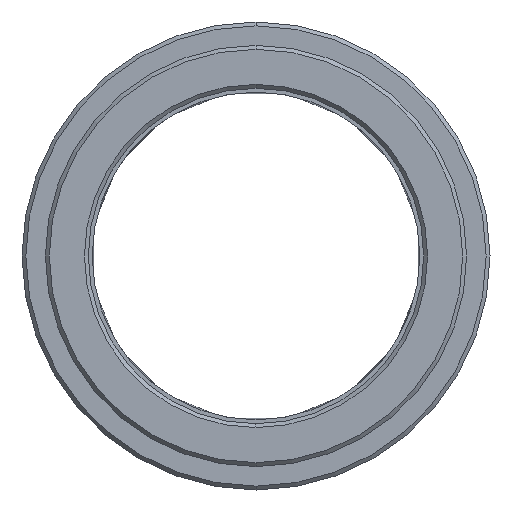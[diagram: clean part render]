
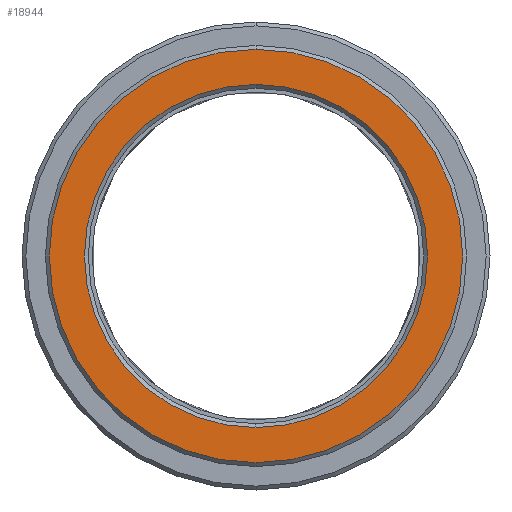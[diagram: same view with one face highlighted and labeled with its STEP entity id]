
A CAD part, left-side view. The second image highlights one B-rep face of the part: STEP entity #18944.
In plain terms, the highlighted planar face has unit normal (-1, 0, 0).
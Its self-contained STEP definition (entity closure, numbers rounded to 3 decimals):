
#7774=CARTESIAN_POINT('',(-10.,0.,
0.));
#7775=DIRECTION('',(1.,0.,0.));
#7776=DIRECTION('',(0.,0.,1.));
#7777=AXIS2_PLACEMENT_3D('',#7774,#7775,#7776);
#7779=CARTESIAN_POINT('',(-10.,0.,
0.));
#7780=DIRECTION('',(1.,0.,0.));
#7781=DIRECTION('',(0.,0.,-1.));
#7782=AXIS2_PLACEMENT_3D('',#7779,#7780,#7781);
#7784=CARTESIAN_POINT('',(-10.,0.,
0.));
#7785=DIRECTION('',(1.,0.,0.));
#7786=DIRECTION('',(0.,0.,1.));
#7787=AXIS2_PLACEMENT_3D('',#7784,#7785,#7786);
#7789=CARTESIAN_POINT('',(-10.,0.,0.));
#7790=DIRECTION('',(1.,0.,0.));
#7791=DIRECTION('',(0.,0.,-1.));
#7792=AXIS2_PLACEMENT_3D('',#7789,#7790,#7791);
#16366=CARTESIAN_POINT('',(-10.,0.,22.));
#16367=CARTESIAN_POINT('',(-10.,0.,-22.));
#16368=VERTEX_POINT('',#16366);
#16369=VERTEX_POINT('',#16367);
#16374=CARTESIAN_POINT('',(-10.,0.,26.5));
#16375=CARTESIAN_POINT('',(-10.,0.,-26.5));
#16376=VERTEX_POINT('',#16374);
#16377=VERTEX_POINT('',#16375);
#18928=CARTESIAN_POINT('',(-10.,0.,0.));
#18929=DIRECTION('',(1.,0.,0.));
#18930=DIRECTION('',(0.,0.,1.));
#18931=AXIS2_PLACEMENT_3D('',#18928,#18929,#18930);
#18932=PLANE('',#18931);
#18934=ORIENTED_EDGE('',*,*,#18933,.T.);
#18936=ORIENTED_EDGE('',*,*,#18935,.T.);
#18937=EDGE_LOOP('',(#18934,#18936));
#18938=FACE_OUTER_BOUND('',#18937,.F.);
#18939=ORIENTED_EDGE('',*,*,#18918,.F.);
#18941=ORIENTED_EDGE('',*,*,#18940,.F.);
#18942=EDGE_LOOP('',(#18939,#18941));
#18943=FACE_BOUND('',#18942,.F.);
#18944=ADVANCED_FACE('',(#18938,#18943),#18932,.F.);
#7778=CIRCLE('',#7777,26.5);
#7783=CIRCLE('',#7782,26.5);
#7788=CIRCLE('',#7787,22.);
#7793=CIRCLE('',#7792,22.);
#18918=EDGE_CURVE('',#16368,#16369,#7788,.T.);
#18933=EDGE_CURVE('',#16376,#16377,#7778,.T.);
#18935=EDGE_CURVE('',#16377,#16376,#7783,.T.);
#18940=EDGE_CURVE('',#16369,#16368,#7793,.T.);
